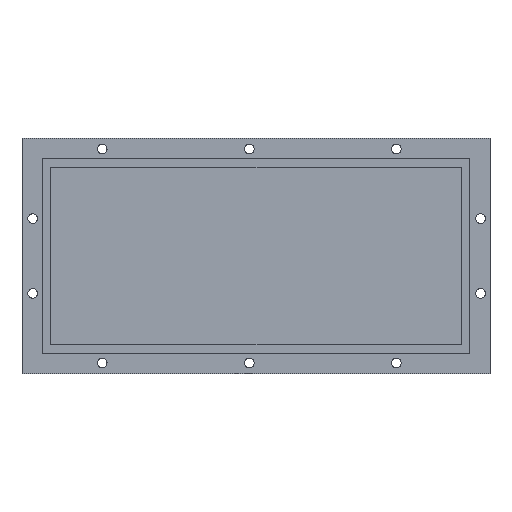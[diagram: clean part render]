
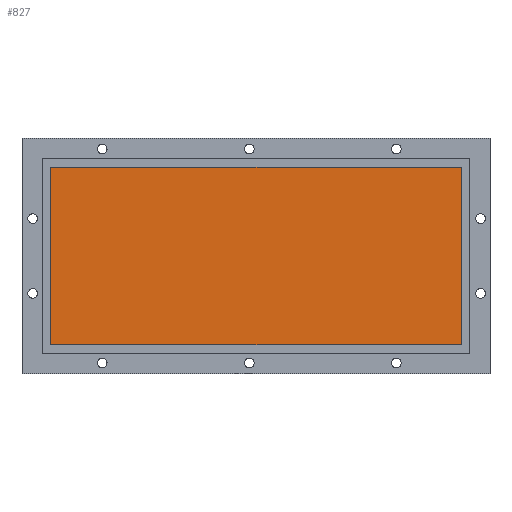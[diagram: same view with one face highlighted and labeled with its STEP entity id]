
A CAD part, top view. The second image highlights one B-rep face of the part: STEP entity #827.
In plain terms, the highlighted planar face has unit normal (0, 0, 1).
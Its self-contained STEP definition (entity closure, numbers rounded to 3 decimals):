
#736 = VERTEX_POINT('',#737);
#737 = CARTESIAN_POINT('',(10.8,77.2,5.));
#743 = EDGE_CURVE('',#736,#744,#746,.T.);
#744 = VERTEX_POINT('',#745);
#745 = CARTESIAN_POINT('',(164.2,77.2,5.));
#746 = LINE('',#747,#748);
#747 = CARTESIAN_POINT('',(5.4,77.2,5.));
#748 = VECTOR('',#749,1.);
#749 = DIRECTION('',(1.,0.,0.));
#767 = EDGE_CURVE('',#744,#768,#770,.T.);
#768 = VERTEX_POINT('',#769);
#769 = CARTESIAN_POINT('',(164.2,10.8,5.));
#770 = LINE('',#771,#772);
#771 = CARTESIAN_POINT('',(164.2,5.4,5.));
#772 = VECTOR('',#773,1.);
#773 = DIRECTION('',(0.,-1.,0.));
#791 = VERTEX_POINT('',#792);
#792 = CARTESIAN_POINT('',(10.8,10.8,5.));
#798 = EDGE_CURVE('',#791,#768,#799,.T.);
#799 = LINE('',#800,#801);
#800 = CARTESIAN_POINT('',(5.4,10.8,5.));
#801 = VECTOR('',#802,1.);
#802 = DIRECTION('',(1.,0.,0.));
#815 = EDGE_CURVE('',#736,#791,#816,.T.);
#816 = LINE('',#817,#818);
#817 = CARTESIAN_POINT('',(10.8,5.4,5.));
#818 = VECTOR('',#819,1.);
#819 = DIRECTION('',(0.,-1.,0.));
#827 = ADVANCED_FACE('',(#828),#834,.F.);
#828 = FACE_BOUND('',#829,.F.);
#829 = EDGE_LOOP('',(#830,#831,#832,#833));
#830 = ORIENTED_EDGE('',*,*,#815,.F.);
#831 = ORIENTED_EDGE('',*,*,#743,.T.);
#832 = ORIENTED_EDGE('',*,*,#767,.T.);
#833 = ORIENTED_EDGE('',*,*,#798,.F.);
#834 = PLANE('',#835);
#835 = AXIS2_PLACEMENT_3D('',#836,#837,#838);
#836 = CARTESIAN_POINT('',(0.,0.,5.));
#837 = DIRECTION('',(0.,0.,-1.));
#838 = DIRECTION('',(0.,1.,0.));
